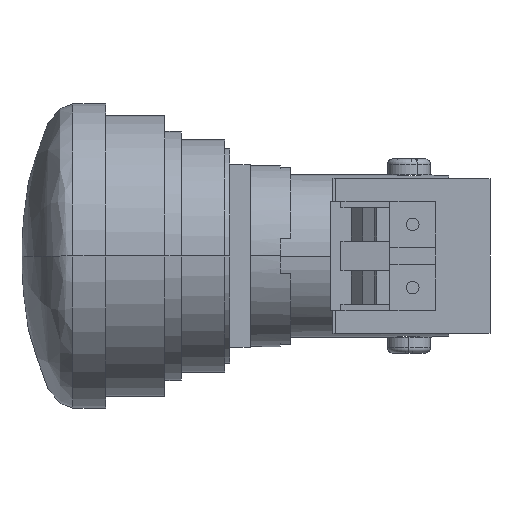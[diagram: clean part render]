
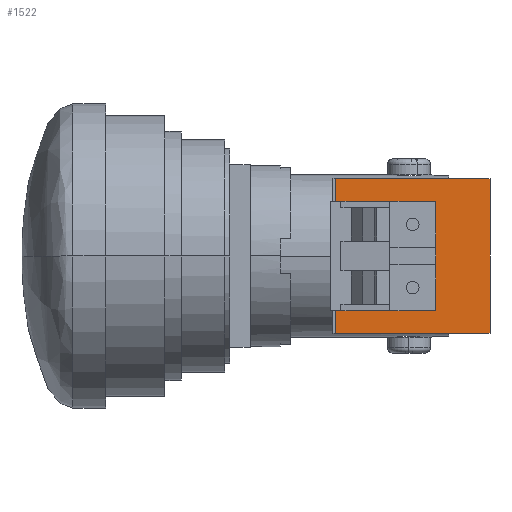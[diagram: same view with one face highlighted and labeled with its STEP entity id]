
A CAD part, left-side view. The second image highlights one B-rep face of the part: STEP entity #1522.
In plain terms, the highlighted planar face has unit normal (-1, 0, 0).
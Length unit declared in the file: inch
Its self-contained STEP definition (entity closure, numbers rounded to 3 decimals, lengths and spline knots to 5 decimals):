
#156 = ORIENTED_EDGE ( 'NONE', *, *, #283, .F. ) ;
#213 = DIRECTION ( 'NONE',  ( 0., -1., 0. ) ) ;
#220 = EDGE_CURVE ( 'NONE', #2972, #4400, #435, .T. ) ;
#283 = EDGE_CURVE ( 'NONE', #4721, #934, #1407, .T. ) ;
#303 = CARTESIAN_POINT ( 'NONE',  ( 0., 0.3, 0.3 ) ) ;
#435 = CIRCLE ( 'NONE', #3047, 0.0625 ) ;
#439 = CARTESIAN_POINT ( 'NONE',  ( 0., -0.3, 0.3 ) ) ;
#683 = DIRECTION ( 'NONE',  ( 0., 0., 1. ) ) ;
#702 = CIRCLE ( 'NONE', #2472, 0.0625 ) ;
#729 = CARTESIAN_POINT ( 'NONE',  ( 0., -0.3, -0.3 ) ) ;
#810 = EDGE_CURVE ( 'NONE', #4400, #2972, #702, .T. ) ;
#882 = CARTESIAN_POINT ( 'NONE',  ( 0., -0.3, -0.3 ) ) ;
#934 = VERTEX_POINT ( 'NONE', #439 ) ;
#1307 = LINE ( 'NONE', #4624, #4673 ) ;
#1407 = LINE ( 'NONE', #3944, #3044 ) ;
#1475 = CARTESIAN_POINT ( 'NONE',  ( 0., -0.3, 0.3 ) ) ;
#1516 = CARTESIAN_POINT ( 'NONE',  ( 0., 0., 0. ) ) ;
#1522 = ADVANCED_FACE ( 'NONE', ( #3023, #4003 ), #3995, .T. ) ;
#1736 = DIRECTION ( 'NONE',  ( 0., 0., 1. ) ) ;
#1905 = LINE ( 'NONE', #1475, #2992 ) ;
#1936 = DIRECTION ( 'NONE',  ( -1., 0., 0. ) ) ;
#2292 = DIRECTION ( 'NONE',  ( 0., 0., -1. ) ) ;
#2472 = AXIS2_PLACEMENT_3D ( 'NONE', #5264, #2640, #2796 ) ;
#2493 = ORIENTED_EDGE ( 'NONE', *, *, #810, .F. ) ;
#2596 = ORIENTED_EDGE ( 'NONE', *, *, #4066, .F. ) ;
#2640 = DIRECTION ( 'NONE',  ( -1., 0., 0. ) ) ;
#2718 = ORIENTED_EDGE ( 'NONE', *, *, #3674, .F. ) ;
#2796 = DIRECTION ( 'NONE',  ( 0., 0., 1. ) ) ;
#2922 = DIRECTION ( 'NONE',  ( 0., 1., 0. ) ) ;
#2972 = VERTEX_POINT ( 'NONE', #3045 ) ;
#2992 = VECTOR ( 'NONE', #2292, 39.37008 ) ;
#3023 = FACE_OUTER_BOUND ( 'NONE', #3943, .T. ) ;
#3044 = VECTOR ( 'NONE', #213, 39.37008 ) ;
#3045 = CARTESIAN_POINT ( 'NONE',  ( 0., 0., 0.0625 ) ) ;
#3047 = AXIS2_PLACEMENT_3D ( 'NONE', #3376, #4629, #1736 ) ;
#3134 = EDGE_LOOP ( 'NONE', ( #2493, #4907 ) ) ;
#3181 = ORIENTED_EDGE ( 'NONE', *, *, #3206, .F. ) ;
#3206 = EDGE_CURVE ( 'NONE', #3589, #4147, #3455, .T. ) ;
#3376 = CARTESIAN_POINT ( 'NONE',  ( 0., 0., 0. ) ) ;
#3394 = CARTESIAN_POINT ( 'NONE',  ( 0., 0.3, -0.3 ) ) ;
#3455 = LINE ( 'NONE', #882, #4814 ) ;
#3589 = VERTEX_POINT ( 'NONE', #729 ) ;
#3674 = EDGE_CURVE ( 'NONE', #934, #3589, #1905, .T. ) ;
#3943 = EDGE_LOOP ( 'NONE', ( #3181, #2718, #156, #2596 ) ) ;
#3944 = CARTESIAN_POINT ( 'NONE',  ( 0., -0.3, 0.3 ) ) ;
#3995 = PLANE ( 'NONE',  #4955 ) ;
#4003 = FACE_BOUND ( 'NONE', #3134, .T. ) ;
#4066 = EDGE_CURVE ( 'NONE', #4147, #4721, #1307, .T. ) ;
#4147 = VERTEX_POINT ( 'NONE', #3394 ) ;
#4190 = DIRECTION ( 'NONE',  ( 0., 0., 1. ) ) ;
#4400 = VERTEX_POINT ( 'NONE', #5241 ) ;
#4624 = CARTESIAN_POINT ( 'NONE',  ( 0., 0.3, 0.3 ) ) ;
#4629 = DIRECTION ( 'NONE',  ( -1., 0., 0. ) ) ;
#4673 = VECTOR ( 'NONE', #4190, 39.37008 ) ;
#4721 = VERTEX_POINT ( 'NONE', #303 ) ;
#4814 = VECTOR ( 'NONE', #2922, 39.37008 ) ;
#4907 = ORIENTED_EDGE ( 'NONE', *, *, #220, .F. ) ;
#4955 = AXIS2_PLACEMENT_3D ( 'NONE', #1516, #1936, #683 ) ;
#5241 = CARTESIAN_POINT ( 'NONE',  ( 0., 0., -0.0625 ) ) ;
#5264 = CARTESIAN_POINT ( 'NONE',  ( 0., 0., 0. ) ) ;
